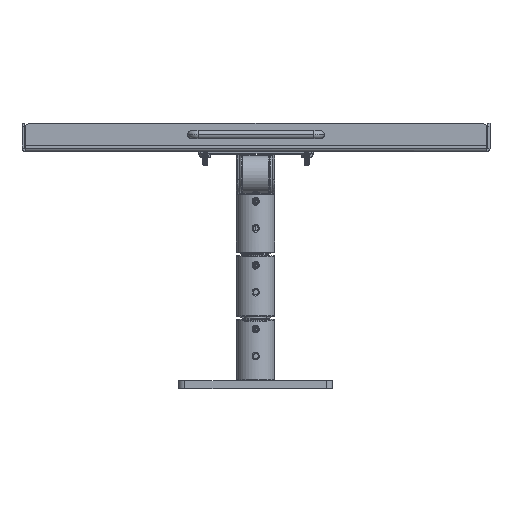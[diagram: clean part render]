
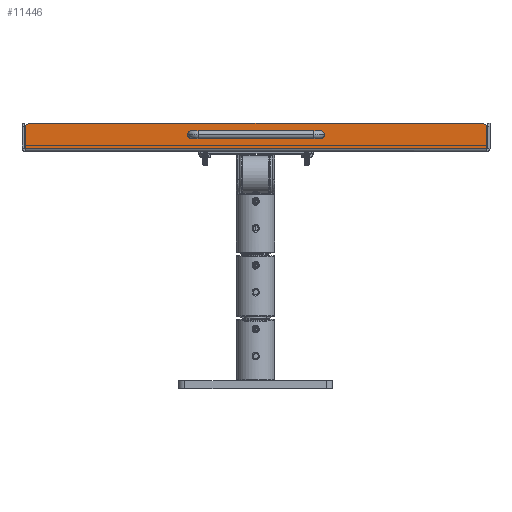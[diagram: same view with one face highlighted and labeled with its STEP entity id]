
A CAD part, top view. The second image highlights one B-rep face of the part: STEP entity #11446.
In plain terms, the highlighted planar face has unit normal (0, 0, 1).
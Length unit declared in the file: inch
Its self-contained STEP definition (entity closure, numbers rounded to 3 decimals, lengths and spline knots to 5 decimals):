
#130 = EDGE_CURVE ( 'NONE', #18212, #24053, #20856, .T. ) ;
#299 = ORIENTED_EDGE ( 'NONE', *, *, #35591, .T. ) ;
#302 = CARTESIAN_POINT ( 'NONE',  ( 8.75, 0.032, 6.09 ) ) ;
#848 = VERTEX_POINT ( 'NONE', #1017 ) ;
#1017 = CARTESIAN_POINT ( 'NONE',  ( -8.96464, 0.032, 6.09 ) ) ;
#1665 = EDGE_LOOP ( 'NONE', ( #19997, #29835 ) ) ;
#1768 = CARTESIAN_POINT ( 'NONE',  ( -2.3995, 0.55, 6.09 ) ) ;
#2045 = CARTESIAN_POINT ( 'NONE',  ( 8.75, 1., 6.09 ) ) ;
#2266 = EDGE_LOOP ( 'NONE', ( #35836, #11776, #3627, #18819, #35399, #299 ) ) ;
#3236 = EDGE_CURVE ( 'NONE', #5810, #20715, #29650, .T. ) ;
#3374 = LINE ( 'NONE', #22858, #28499 ) ;
#3627 = ORIENTED_EDGE ( 'NONE', *, *, #31954, .F. ) ;
#4250 = CARTESIAN_POINT ( 'NONE',  ( -2.6005, 0.55, 6.09 ) ) ;
#4252 = CARTESIAN_POINT ( 'NONE',  ( 8.96464, 0.032, 6.09 ) ) ;
#4888 = ORIENTED_EDGE ( 'NONE', *, *, #24730, .T. ) ;
#5144 = AXIS2_PLACEMENT_3D ( 'NONE', #13991, #35843, #11081 ) ;
#5173 = EDGE_CURVE ( 'NONE', #20715, #12504, #28173, .T. ) ;
#5776 = DIRECTION ( 'NONE',  ( 0., 0., -1. ) ) ;
#5810 = VERTEX_POINT ( 'NONE', #2045 ) ;
#5887 = CARTESIAN_POINT ( 'NONE',  ( 8.75, 0.75, 6.09 ) ) ;
#6119 = DIRECTION ( 'NONE',  ( 1., 0., 0. ) ) ;
#7501 = VERTEX_POINT ( 'NONE', #1768 ) ;
#7932 = CARTESIAN_POINT ( 'NONE',  ( 2.6005, 0.55, 6.09 ) ) ;
#8720 = DIRECTION ( 'NONE',  ( 0., -1., 0. ) ) ;
#9004 = CARTESIAN_POINT ( 'NONE',  ( -8.96464, 0.75, 6.09 ) ) ;
#9191 = DIRECTION ( 'NONE',  ( 0., -1., 0. ) ) ;
#9892 = AXIS2_PLACEMENT_3D ( 'NONE', #11591, #5776, #28516 ) ;
#10304 = CIRCLE ( 'NONE', #21349, 0.1005 ) ;
#10495 = DIRECTION ( 'NONE',  ( 0., -1., 0. ) ) ;
#11081 = DIRECTION ( 'NONE',  ( -1., 0., 0. ) ) ;
#11443 = VERTEX_POINT ( 'NONE', #23797 ) ;
#11446 = ADVANCED_FACE ( 'NONE', ( #31795, #34901, #12490 ), #32160, .T. ) ;
#11591 = CARTESIAN_POINT ( 'NONE',  ( -2.5, 0.55, 6.09 ) ) ;
#11776 = ORIENTED_EDGE ( 'NONE', *, *, #3236, .F. ) ;
#12411 = DIRECTION ( 'NONE',  ( 0., 0., -1. ) ) ;
#12449 = EDGE_CURVE ( 'NONE', #11443, #27679, #17886, .T. ) ;
#12490 = FACE_BOUND ( 'NONE', #1665, .T. ) ;
#12504 = VERTEX_POINT ( 'NONE', #4252 ) ;
#12856 = AXIS2_PLACEMENT_3D ( 'NONE', #18323, #29410, #10495 ) ;
#12908 = VECTOR ( 'NONE', #8720, 39.37008 ) ;
#13908 = CIRCLE ( 'NONE', #9892, 0.1005 ) ;
#13945 = LINE ( 'NONE', #302, #35756 ) ;
#13991 = CARTESIAN_POINT ( 'NONE',  ( 2.5, 0.55, 6.09 ) ) ;
#14468 = DIRECTION ( 'NONE',  ( 1., 0., 0. ) ) ;
#15235 = DIRECTION ( 'NONE',  ( -1., 0., 0. ) ) ;
#17886 = CIRCLE ( 'NONE', #35326, 0.25 ) ;
#18150 = CARTESIAN_POINT ( 'NONE',  ( -2.5, 0.55, 6.09 ) ) ;
#18212 = VERTEX_POINT ( 'NONE', #24247 ) ;
#18272 = VERTEX_POINT ( 'NONE', #4250 ) ;
#18323 = CARTESIAN_POINT ( 'NONE',  ( 8.75, 0.75, 6.09 ) ) ;
#18819 = ORIENTED_EDGE ( 'NONE', *, *, #12449, .F. ) ;
#18957 = CIRCLE ( 'NONE', #24803, 0.1005 ) ;
#19702 = DIRECTION ( 'NONE',  ( 0., -1., 0. ) ) ;
#19997 = ORIENTED_EDGE ( 'NONE', *, *, #25167, .T. ) ;
#20556 = EDGE_LOOP ( 'NONE', ( #4888, #20866 ) ) ;
#20715 = VERTEX_POINT ( 'NONE', #21833 ) ;
#20856 = CIRCLE ( 'NONE', #5144, 0.1005 ) ;
#20866 = ORIENTED_EDGE ( 'NONE', *, *, #28851, .T. ) ;
#21349 = AXIS2_PLACEMENT_3D ( 'NONE', #32690, #24869, #33022 ) ;
#21590 = CARTESIAN_POINT ( 'NONE',  ( -8.75, 1., 6.09 ) ) ;
#21833 = CARTESIAN_POINT ( 'NONE',  ( 8.96464, 0.87817, 6.09 ) ) ;
#22010 = CARTESIAN_POINT ( 'NONE',  ( 8.96464, 0.75, 6.09 ) ) ;
#22858 = CARTESIAN_POINT ( 'NONE',  ( 8.75, 1., 6.09 ) ) ;
#23281 = AXIS2_PLACEMENT_3D ( 'NONE', #5887, #25012, #19702 ) ;
#23797 = CARTESIAN_POINT ( 'NONE',  ( -8.96464, 0.87817, 6.09 ) ) ;
#24053 = VERTEX_POINT ( 'NONE', #7932 ) ;
#24247 = CARTESIAN_POINT ( 'NONE',  ( 2.3995, 0.55, 6.09 ) ) ;
#24730 = EDGE_CURVE ( 'NONE', #7501, #18272, #18957, .T. ) ;
#24803 = AXIS2_PLACEMENT_3D ( 'NONE', #18150, #26515, #15235 ) ;
#24869 = DIRECTION ( 'NONE',  ( 0., 0., -1. ) ) ;
#25012 = DIRECTION ( 'NONE',  ( 0., 0., -1. ) ) ;
#25167 = EDGE_CURVE ( 'NONE', #24053, #18212, #10304, .T. ) ;
#26515 = DIRECTION ( 'NONE',  ( 0., 0., -1. ) ) ;
#27679 = VERTEX_POINT ( 'NONE', #21590 ) ;
#28016 = EDGE_CURVE ( 'NONE', #11443, #848, #33938, .T. ) ;
#28173 = LINE ( 'NONE', #22010, #12908 ) ;
#28499 = VECTOR ( 'NONE', #14468, 39.37008 ) ;
#28516 = DIRECTION ( 'NONE',  ( -1., 0., 0. ) ) ;
#28851 = EDGE_CURVE ( 'NONE', #18272, #7501, #13908, .T. ) ;
#29410 = DIRECTION ( 'NONE',  ( 0., 0., 1. ) ) ;
#29650 = CIRCLE ( 'NONE', #23281, 0.25 ) ;
#29835 = ORIENTED_EDGE ( 'NONE', *, *, #130, .T. ) ;
#31795 = FACE_BOUND ( 'NONE', #20556, .T. ) ;
#31954 = EDGE_CURVE ( 'NONE', #27679, #5810, #3374, .T. ) ;
#32084 = CARTESIAN_POINT ( 'NONE',  ( -8.75, 0.75, 6.09 ) ) ;
#32160 = PLANE ( 'NONE',  #12856 ) ;
#32256 = DIRECTION ( 'NONE',  ( 0., -1., 0. ) ) ;
#32690 = CARTESIAN_POINT ( 'NONE',  ( 2.5, 0.55, 6.09 ) ) ;
#33022 = DIRECTION ( 'NONE',  ( -1., 0., 0. ) ) ;
#33938 = LINE ( 'NONE', #9004, #35421 ) ;
#34901 = FACE_OUTER_BOUND ( 'NONE', #2266, .T. ) ;
#35326 = AXIS2_PLACEMENT_3D ( 'NONE', #32084, #12411, #32256 ) ;
#35399 = ORIENTED_EDGE ( 'NONE', *, *, #28016, .T. ) ;
#35421 = VECTOR ( 'NONE', #9191, 39.37008 ) ;
#35591 = EDGE_CURVE ( 'NONE', #848, #12504, #13945, .T. ) ;
#35756 = VECTOR ( 'NONE', #6119, 39.37008 ) ;
#35836 = ORIENTED_EDGE ( 'NONE', *, *, #5173, .F. ) ;
#35843 = DIRECTION ( 'NONE',  ( 0., 0., -1. ) ) ;
